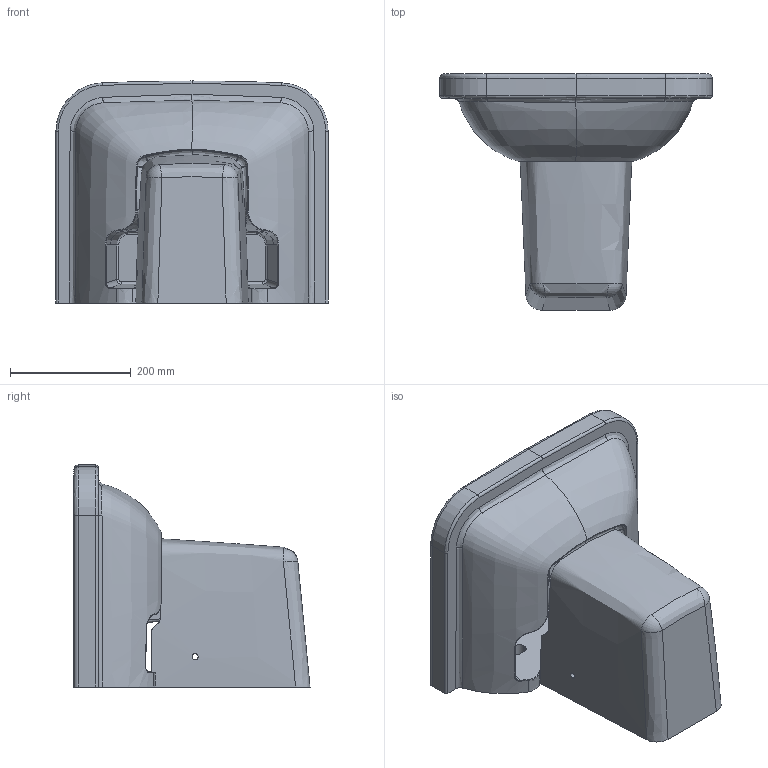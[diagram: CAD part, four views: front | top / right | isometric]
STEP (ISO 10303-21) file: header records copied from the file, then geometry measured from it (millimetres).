
FILE_DESCRIPTION (( 'STEP AP203' ), '1' );
FILE_NAME ('KY045-00CB00E-0000.STEP', '2022-05-09T08:27:56', ( '' ), ( '' ), 'SwSTEP 2.0', 'SolidWorks 2021', '' );
FILE_SCHEMA (( 'CONFIG_CONTROL_DESIGN' ));
Length unit declared in the file: millimetre
Products named in the file (1): KY045-00CB00E-0000
Bounding box: 450 x 390.19 x 367 mm (x, y, z)
Volume: 9694717.6 mm3; surface area: 960682.7 mm2
Topology: 3 solids, 3 shells, 398 faces, 1073 edges, 667 vertices
Faces by surface type: bspline 284, cylinder 63, plane 47, cone 2, sphere 2
Entity records: 69305 total; most frequent: CARTESIAN_POINT 61528, ORIENTED_EDGE 2120, EDGE_CURVE 1060, DIRECTION 905, VERTEX_POINT 667, B_SPLINE_CURVE_WITH_KNOTS 614, EDGE_LOOP 411, ADVANCED_FACE 398
